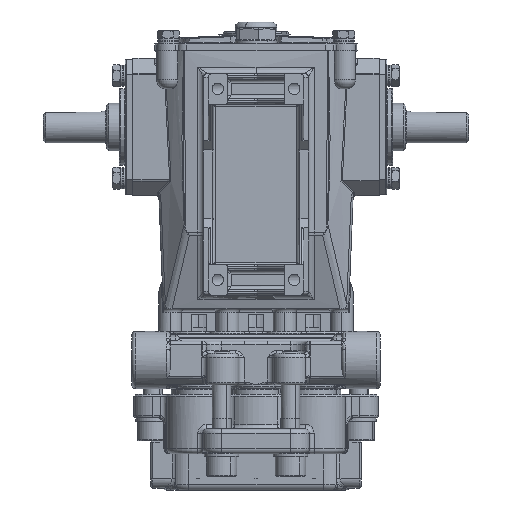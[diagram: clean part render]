
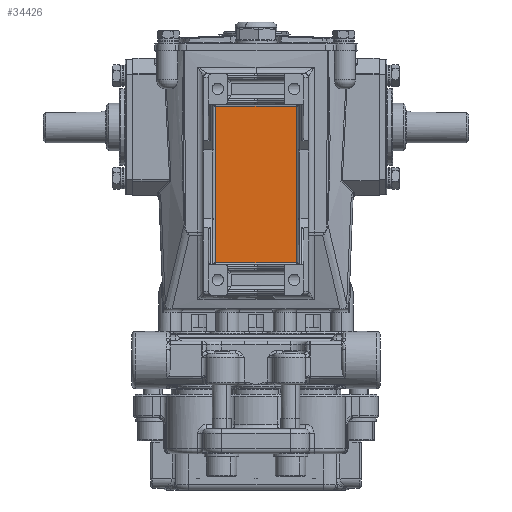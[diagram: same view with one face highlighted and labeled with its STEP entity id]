
A CAD part, front view. The second image highlights one B-rep face of the part: STEP entity #34426.
In plain terms, the highlighted planar face has unit normal (0, -1, 0).
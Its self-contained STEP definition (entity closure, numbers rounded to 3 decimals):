
#13077 = DIRECTION ( 'NONE',  ( -1., 0., 0. ) ) ;
#13078 = VECTOR ( 'NONE', #13077, 1000. ) ;
#13079 = CARTESIAN_POINT ( 'NONE',  ( -22., -40., 133. ) ) ;
#13080 = LINE ( 'NONE', #13079, #13078 ) ;
#13474 = CARTESIAN_POINT ( 'NONE',  ( -21., -40., 133. ) ) ;
#13849 = DIRECTION ( 'NONE',  ( 0., 0., -1. ) ) ;
#13850 = VECTOR ( 'NONE', #13849, 1000. ) ;
#13851 = CARTESIAN_POINT ( 'NONE',  ( -21., -40., 50. ) ) ;
#13852 = LINE ( 'NONE', #13851, #13850 ) ;
#33286 = VERTEX_POINT ( 'NONE', #234522 ) ;
#33739 = EDGE_LOOP ( 'NONE', ( #34134, #34155, #34428, #34186 ) ) ;
#33853 = VERTEX_POINT ( 'NONE', #239266 ) ;
#34025 = VERTEX_POINT ( 'NONE', #240134 ) ;
#34134 = ORIENTED_EDGE ( 'NONE', *, *, #35082, .T. ) ;
#34155 = ORIENTED_EDGE ( 'NONE', *, *, #34491, .T. ) ;
#34186 = ORIENTED_EDGE ( 'NONE', *, *, #34884, .T. ) ;
#34421 = EDGE_CURVE ( 'NONE', #33286, #34025, #243282, .T. ) ;
#34426 = ADVANCED_FACE ( 'NONE', ( #243232 ), #243155, .F. ) ;
#34428 = ORIENTED_EDGE ( 'NONE', *, *, #34421, .T. ) ;
#34491 = EDGE_CURVE ( 'NONE', #33853, #33286, #243847, .T. ) ;
#34884 = EDGE_CURVE ( 'NONE', #34025, #35017, #13080, .T. ) ;
#35017 = VERTEX_POINT ( 'NONE', #13474 ) ;
#35082 = EDGE_CURVE ( 'NONE', #35017, #33853, #13852, .T. ) ;
#234522 = CARTESIAN_POINT ( 'NONE',  ( 21., -40., 51. ) ) ;
#239266 = CARTESIAN_POINT ( 'NONE',  ( -21., -40., 51. ) ) ;
#240134 = CARTESIAN_POINT ( 'NONE',  ( 21., -40., 133. ) ) ;
#243154 = AXIS2_PLACEMENT_3D ( 'NONE', #243305, #243302, #243300 ) ;
#243155 = PLANE ( 'NONE',  #243154 ) ;
#243232 = FACE_OUTER_BOUND ( 'NONE', #33739, .T. ) ;
#243276 = DIRECTION ( 'NONE',  ( 0., 0., 1. ) ) ;
#243278 = VECTOR ( 'NONE', #243276, 1000. ) ;
#243280 = CARTESIAN_POINT ( 'NONE',  ( 21., -40., 134. ) ) ;
#243282 = LINE ( 'NONE', #243280, #243278 ) ;
#243300 = DIRECTION ( 'NONE',  ( -1., 0., 0. ) ) ;
#243302 = DIRECTION ( 'NONE',  ( 0., 1., 0. ) ) ;
#243305 = CARTESIAN_POINT ( 'NONE',  ( 22., -40., 134. ) ) ;
#243844 = CARTESIAN_POINT ( 'NONE',  ( 22., -40., 51. ) ) ;
#243847 = LINE ( 'NONE', #243844, #243964 ) ;
#243962 = DIRECTION ( 'NONE',  ( 1., 0., 0. ) ) ;
#243964 = VECTOR ( 'NONE', #243962, 1000. ) ;
